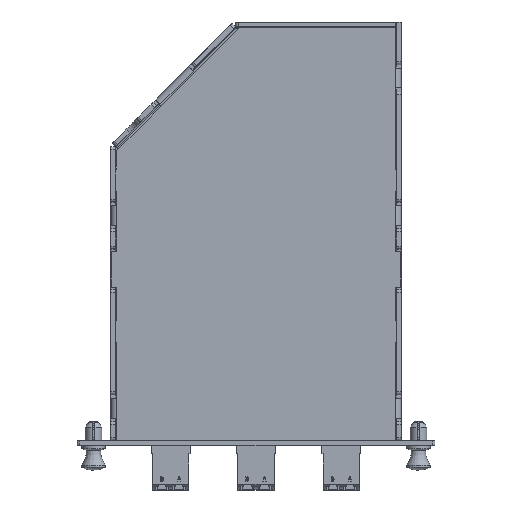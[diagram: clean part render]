
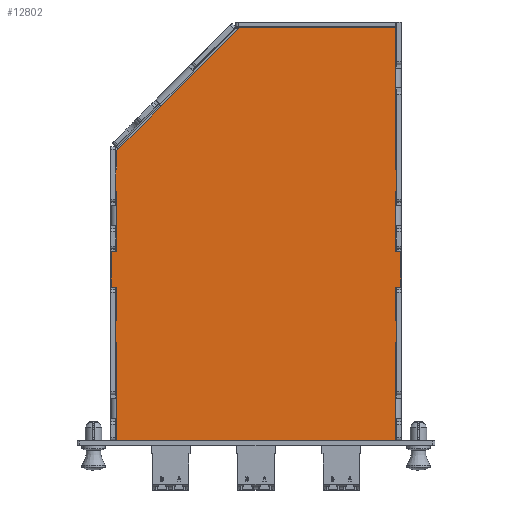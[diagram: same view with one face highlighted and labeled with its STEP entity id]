
A CAD part, top view. The second image highlights one B-rep face of the part: STEP entity #12802.
In plain terms, the highlighted planar face has unit normal (0, 0, 1).
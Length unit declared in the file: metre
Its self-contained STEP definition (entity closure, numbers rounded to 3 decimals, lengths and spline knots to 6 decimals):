
#4147=ORIENTED_EDGE('',*,*,#6002,.F.);
#4148=ORIENTED_EDGE('',*,*,#5990,.T.);
#4149=ORIENTED_EDGE('',*,*,#6016,.F.);
#4150=ORIENTED_EDGE('',*,*,#6017,.T.);
#4151=ORIENTED_EDGE('',*,*,#6018,.T.);
#4152=ORIENTED_EDGE('',*,*,#5993,.T.);
#4153=ORIENTED_EDGE('',*,*,#6019,.F.);
#4154=ORIENTED_EDGE('',*,*,#6020,.T.);
#4155=ORIENTED_EDGE('',*,*,#6021,.T.);
#4156=ORIENTED_EDGE('',*,*,#6003,.T.);
#4157=ORIENTED_EDGE('',*,*,#6022,.F.);
#4158=ORIENTED_EDGE('',*,*,#6023,.T.);
#4159=ORIENTED_EDGE('',*,*,#6024,.T.);
#4160=ORIENTED_EDGE('',*,*,#6000,.T.);
#4161=ORIENTED_EDGE('',*,*,#6009,.T.);
#4162=ORIENTED_EDGE('',*,*,#6011,.F.);
#4163=ORIENTED_EDGE('',*,*,#5979,.F.);
#4164=ORIENTED_EDGE('',*,*,#6025,.F.);
#4165=ORIENTED_EDGE('',*,*,#6026,.F.);
#4166=ORIENTED_EDGE('',*,*,#6027,.T.);
#4167=ORIENTED_EDGE('',*,*,#6015,.F.);
#4168=ORIENTED_EDGE('',*,*,#6028,.F.);
#4169=ORIENTED_EDGE('',*,*,#6029,.F.);
#4170=ORIENTED_EDGE('',*,*,#6030,.T.);
#4171=ORIENTED_EDGE('',*,*,#5986,.F.);
#4172=ORIENTED_EDGE('',*,*,#6031,.F.);
#4173=ORIENTED_EDGE('',*,*,#6032,.F.);
#4174=ORIENTED_EDGE('',*,*,#6033,.T.);
#4175=ORIENTED_EDGE('',*,*,#5981,.F.);
#5979=EDGE_CURVE('',#7190,#7191,#8548,.T.);
#5981=EDGE_CURVE('',#7192,#7193,#8550,.T.);
#5986=EDGE_CURVE('',#7196,#7198,#8555,.T.);
#5990=EDGE_CURVE('',#7202,#7200,#8559,.T.);
#5993=EDGE_CURVE('',#7204,#7205,#8562,.T.);
#6000=EDGE_CURVE('',#7209,#7211,#8569,.T.);
#6002=EDGE_CURVE('',#7202,#7192,#8571,.T.);
#6003=EDGE_CURVE('',#7212,#7213,#8572,.T.);
#6009=EDGE_CURVE('',#7211,#7217,#8578,.T.);
#6011=EDGE_CURVE('',#7191,#7217,#8580,.T.);
#6015=EDGE_CURVE('',#7221,#7219,#8584,.T.);
#6016=EDGE_CURVE('',#7222,#7200,#8585,.T.);
#6017=EDGE_CURVE('',#7222,#7223,#8586,.T.);
#6018=EDGE_CURVE('',#7223,#7204,#8587,.T.);
#6019=EDGE_CURVE('',#7224,#7205,#8588,.T.);
#6020=EDGE_CURVE('',#7224,#7225,#8589,.T.);
#6021=EDGE_CURVE('',#7225,#7212,#8590,.T.);
#6022=EDGE_CURVE('',#7226,#7213,#8591,.T.);
#6023=EDGE_CURVE('',#7226,#7227,#8592,.T.);
#6024=EDGE_CURVE('',#7227,#7209,#8593,.T.);
#6025=EDGE_CURVE('',#7228,#7190,#8594,.T.);
#6026=EDGE_CURVE('',#7229,#7228,#8595,.T.);
#6027=EDGE_CURVE('',#7229,#7219,#8596,.T.);
#6028=EDGE_CURVE('',#7230,#7221,#8597,.T.);
#6029=EDGE_CURVE('',#7231,#7230,#8598,.T.);
#6030=EDGE_CURVE('',#7231,#7198,#8599,.T.);
#6031=EDGE_CURVE('',#7232,#7196,#8600,.T.);
#6032=EDGE_CURVE('',#7233,#7232,#8601,.T.);
#6033=EDGE_CURVE('',#7233,#7193,#8602,.T.);
#7190=VERTEX_POINT('',#21990);
#7191=VERTEX_POINT('',#21992);
#7192=VERTEX_POINT('',#21996);
#7193=VERTEX_POINT('',#21997);
#7196=VERTEX_POINT('',#22005);
#7198=VERTEX_POINT('',#22008);
#7200=VERTEX_POINT('',#22014);
#7202=VERTEX_POINT('',#22017);
#7204=VERTEX_POINT('',#22023);
#7205=VERTEX_POINT('',#22024);
#7209=VERTEX_POINT('',#22033);
#7211=VERTEX_POINT('',#22037);
#7212=VERTEX_POINT('',#22044);
#7213=VERTEX_POINT('',#22045);
#7217=VERTEX_POINT('',#22055);
#7219=VERTEX_POINT('',#22063);
#7221=VERTEX_POINT('',#22067);
#7222=VERTEX_POINT('',#22071);
#7223=VERTEX_POINT('',#22073);
#7224=VERTEX_POINT('',#22076);
#7225=VERTEX_POINT('',#22078);
#7226=VERTEX_POINT('',#22081);
#7227=VERTEX_POINT('',#22083);
#7228=VERTEX_POINT('',#22086);
#7229=VERTEX_POINT('',#22088);
#7230=VERTEX_POINT('',#22091);
#7231=VERTEX_POINT('',#22093);
#7232=VERTEX_POINT('',#22096);
#7233=VERTEX_POINT('',#22098);
#8548=LINE('',#21991,#9935);
#8550=LINE('',#21995,#9937);
#8555=LINE('',#22007,#9942);
#8559=LINE('',#22016,#9946);
#8562=LINE('',#22022,#9949);
#8569=LINE('',#22038,#9956);
#8571=LINE('',#22041,#9958);
#8572=LINE('',#22043,#9959);
#8578=LINE('',#22056,#9965);
#8580=LINE('',#22059,#9967);
#8584=LINE('',#22068,#9971);
#8585=LINE('',#22070,#9972);
#8586=LINE('',#22072,#9973);
#8587=LINE('',#22074,#9974);
#8588=LINE('',#22075,#9975);
#8589=LINE('',#22077,#9976);
#8590=LINE('',#22079,#9977);
#8591=LINE('',#22080,#9978);
#8592=LINE('',#22082,#9979);
#8593=LINE('',#22084,#9980);
#8594=LINE('',#22085,#9981);
#8595=LINE('',#22087,#9982);
#8596=LINE('',#22089,#9983);
#8597=LINE('',#22090,#9984);
#8598=LINE('',#22092,#9985);
#8599=LINE('',#22094,#9986);
#8600=LINE('',#22095,#9987);
#8601=LINE('',#22097,#9988);
#8602=LINE('',#22099,#9989);
#9935=VECTOR('',#17233,1.);
#9937=VECTOR('',#17237,1.);
#9942=VECTOR('',#17244,1.);
#9946=VECTOR('',#17250,1.);
#9949=VECTOR('',#17255,1.);
#9956=VECTOR('',#17264,1.);
#9958=VECTOR('',#17268,1.);
#9959=VECTOR('',#17271,1.);
#9965=VECTOR('',#17279,1.);
#9967=VECTOR('',#17283,1.);
#9971=VECTOR('',#17289,1.);
#9972=VECTOR('',#17292,1.);
#9973=VECTOR('',#17293,1.);
#9974=VECTOR('',#17294,1.);
#9975=VECTOR('',#17295,1.);
#9976=VECTOR('',#17296,1.);
#9977=VECTOR('',#17297,1.);
#9978=VECTOR('',#17298,1.);
#9979=VECTOR('',#17299,1.);
#9980=VECTOR('',#17300,1.);
#9981=VECTOR('',#17301,1.);
#9982=VECTOR('',#17302,1.);
#9983=VECTOR('',#17303,1.);
#9984=VECTOR('',#17304,1.);
#9985=VECTOR('',#17305,1.);
#9986=VECTOR('',#17306,1.);
#9987=VECTOR('',#17307,1.);
#9988=VECTOR('',#17308,1.);
#9989=VECTOR('',#17309,1.);
#10807=EDGE_LOOP('',(#4147,#4148,#4149,#4150,#4151,#4152,#4153,#4154,#4155,
#4156,#4157,#4158,#4159,#4160,#4161,#4162,#4163,#4164,#4165,#4166,#4167,
#4168,#4169,#4170,#4171,#4172,#4173,#4174,#4175));
#11616=FACE_BOUND('',#10807,.T.);
#12125=PLANE('',#13976);
#12802=ADVANCED_FACE('',(#11616),#12125,.T.);
#13976=AXIS2_PLACEMENT_3D('',#22069,#17290,#17291);
#17233=DIRECTION('',(0.,1.,0.));
#17237=DIRECTION('',(0.,1.,0.));
#17244=DIRECTION('',(0.,1.,0.));
#17250=DIRECTION('',(0.,1.,0.));
#17255=DIRECTION('',(0.,1.,0.));
#17264=DIRECTION('',(0.,1.,0.));
#17268=DIRECTION('',(-1.,0.,0.));
#17271=DIRECTION('',(0.,1.,0.));
#17279=DIRECTION('',(-1.,0.,0.));
#17283=DIRECTION('',(0.707,0.707,0.));
#17289=DIRECTION('',(0.,1.,0.));
#17290=DIRECTION('',(0.,0.,1.));
#17291=DIRECTION('',(1.,0.,0.));
#17292=DIRECTION('',(-1.,0.,0.));
#17293=DIRECTION('',(0.,1.,0.));
#17294=DIRECTION('',(-1.,0.,0.));
#17295=DIRECTION('',(-1.,0.,0.));
#17296=DIRECTION('',(0.,1.,0.));
#17297=DIRECTION('',(-1.,0.,0.));
#17298=DIRECTION('',(-1.,0.,0.));
#17299=DIRECTION('',(0.,1.,0.));
#17300=DIRECTION('',(-1.,0.,0.));
#17301=DIRECTION('',(1.,0.,0.));
#17302=DIRECTION('',(0.,1.,0.));
#17303=DIRECTION('',(1.,0.,0.));
#17304=DIRECTION('',(1.,0.,0.));
#17305=DIRECTION('',(0.,1.,0.));
#17306=DIRECTION('',(1.,0.,0.));
#17307=DIRECTION('',(1.,0.,0.));
#17308=DIRECTION('',(0.,1.,0.));
#17309=DIRECTION('',(1.,0.,0.));
#21990=CARTESIAN_POINT('',(-0.0505,0.0226,0.0254));
#21991=CARTESIAN_POINT('',(-0.0505,-0.023274,0.0254));
#21992=CARTESIAN_POINT('',(-0.0505,0.029452,0.0254));
#21995=CARTESIAN_POINT('',(-0.0505,-0.023274,0.0254));
#21996=CARTESIAN_POINT('',(-0.0505,-0.076,0.0254));
#21997=CARTESIAN_POINT('',(-0.0505,-0.0403,0.0254));
#22005=CARTESIAN_POINT('',(-0.0505,-0.0323,0.0254));
#22007=CARTESIAN_POINT('',(-0.0505,-0.023274,0.0254));
#22008=CARTESIAN_POINT('',(-0.0505,-0.0203,0.0254));
#22014=CARTESIAN_POINT('',(0.0505,-0.0403,0.0254));
#22016=CARTESIAN_POINT('',(0.0505,-0.001,0.0254));
#22017=CARTESIAN_POINT('',(0.0505,-0.076,0.0254));
#22022=CARTESIAN_POINT('',(0.0505,-0.001,0.0254));
#22023=CARTESIAN_POINT('',(0.0505,-0.0323,0.0254));
#22024=CARTESIAN_POINT('',(0.0505,-0.0203,0.0254));
#22033=CARTESIAN_POINT('',(0.0505,0.0226,0.0254));
#22037=CARTESIAN_POINT('',(0.0505,0.074,0.0254));
#22038=CARTESIAN_POINT('',(0.0505,-0.001,0.0254));
#22041=CARTESIAN_POINT('',(0.,-0.076,0.0254));
#22043=CARTESIAN_POINT('',(0.0505,-0.001,0.0254));
#22044=CARTESIAN_POINT('',(0.0505,-0.0073,0.0254));
#22045=CARTESIAN_POINT('',(0.0505,0.0146,0.0254));
#22055=CARTESIAN_POINT('',(-0.005952,0.074,0.0254));
#22056=CARTESIAN_POINT('',(0.022274,0.074,0.0254));
#22059=CARTESIAN_POINT('',(-0.028226,0.051726,0.0254));
#22063=CARTESIAN_POINT('',(-0.0505,0.0146,0.0254));
#22067=CARTESIAN_POINT('',(-0.0505,-0.0073,0.0254));
#22068=CARTESIAN_POINT('',(-0.0505,-0.023274,0.0254));
#22069=CARTESIAN_POINT('',(0.,-0.001,0.0254));
#22070=CARTESIAN_POINT('',(0.0525,-0.0403,0.0254));
#22071=CARTESIAN_POINT('',(0.0525,-0.0403,0.0254));
#22072=CARTESIAN_POINT('',(0.0525,-0.001,0.0254));
#22073=CARTESIAN_POINT('',(0.0525,-0.0323,0.0254));
#22074=CARTESIAN_POINT('',(0.0525,-0.0323,0.0254));
#22075=CARTESIAN_POINT('',(0.0525,-0.0203,0.0254));
#22076=CARTESIAN_POINT('',(0.0525,-0.0203,0.0254));
#22077=CARTESIAN_POINT('',(0.0525,-0.001,0.0254));
#22078=CARTESIAN_POINT('',(0.0525,-0.0073,0.0254));
#22079=CARTESIAN_POINT('',(0.0525,-0.0073,0.0254));
#22080=CARTESIAN_POINT('',(0.0525,0.0146,0.0254));
#22081=CARTESIAN_POINT('',(0.0525,0.0146,0.0254));
#22082=CARTESIAN_POINT('',(0.0525,-0.001,0.0254));
#22083=CARTESIAN_POINT('',(0.0525,0.0226,0.0254));
#22084=CARTESIAN_POINT('',(0.0525,0.0226,0.0254));
#22085=CARTESIAN_POINT('',(-0.0525,0.0226,0.0254));
#22086=CARTESIAN_POINT('',(-0.0525,0.0226,0.0254));
#22087=CARTESIAN_POINT('',(-0.0525,-0.023274,0.0254));
#22088=CARTESIAN_POINT('',(-0.0525,0.0146,0.0254));
#22089=CARTESIAN_POINT('',(-0.0525,0.0146,0.0254));
#22090=CARTESIAN_POINT('',(-0.0525,-0.0073,0.0254));
#22091=CARTESIAN_POINT('',(-0.0525,-0.0073,0.0254));
#22092=CARTESIAN_POINT('',(-0.0525,-0.023274,0.0254));
#22093=CARTESIAN_POINT('',(-0.0525,-0.0203,0.0254));
#22094=CARTESIAN_POINT('',(-0.0525,-0.0203,0.0254));
#22095=CARTESIAN_POINT('',(-0.0525,-0.0323,0.0254));
#22096=CARTESIAN_POINT('',(-0.0525,-0.0323,0.0254));
#22097=CARTESIAN_POINT('',(-0.0525,-0.023274,0.0254));
#22098=CARTESIAN_POINT('',(-0.0525,-0.0403,0.0254));
#22099=CARTESIAN_POINT('',(-0.0525,-0.0403,0.0254));
